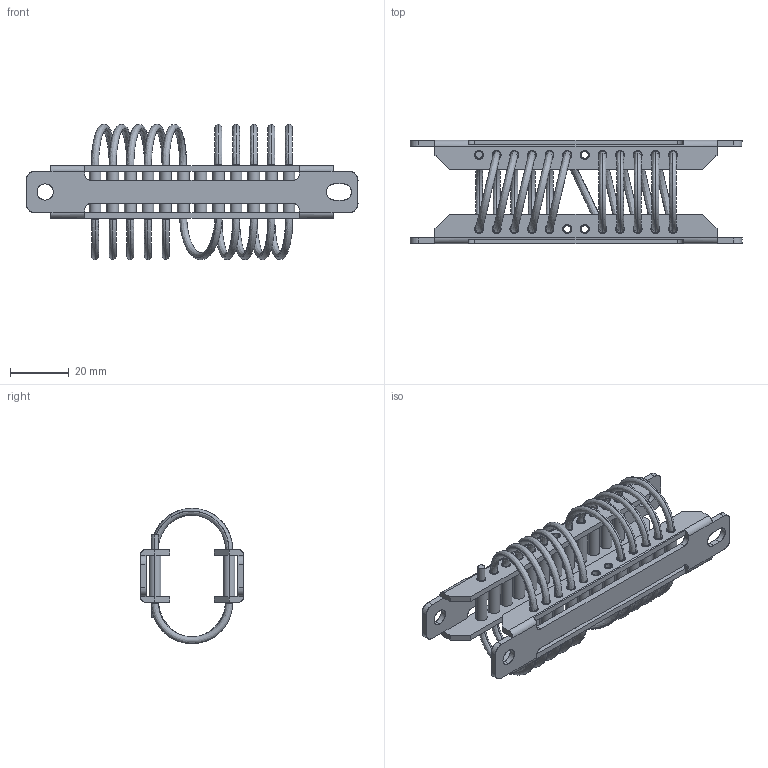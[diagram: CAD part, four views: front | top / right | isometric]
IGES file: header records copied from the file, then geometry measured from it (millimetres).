
Start section: SolidWorks IGES file using analytic representation for surfaces
Bounding box: 113 x 35.2 x 46.07 mm (x, y, z)
Surface area: 26265 mm2 (no closed solid volume)
Topology: 0 solids, 0 shells, 285 faces, 8148 edges, 8148 vertices
Faces by surface type: bspline 161, revolution 124
